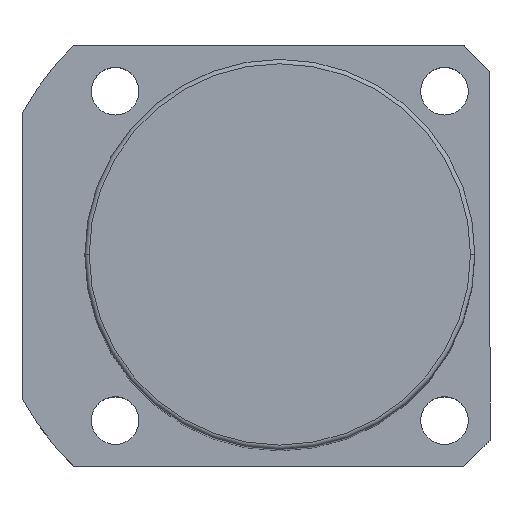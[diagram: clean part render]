
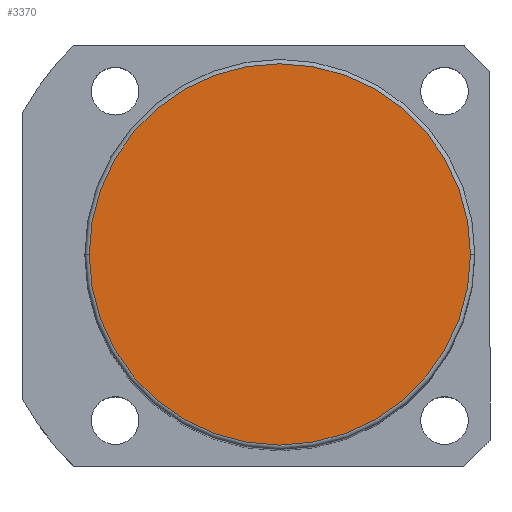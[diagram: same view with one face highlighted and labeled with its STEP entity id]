
A CAD part, top view. The second image highlights one B-rep face of the part: STEP entity #3370.
In plain terms, the highlighted planar face has unit normal (0, 0, 1).
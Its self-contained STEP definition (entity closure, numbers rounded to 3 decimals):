
#55 = ORIENTED_EDGE ( 'NONE', *, *, #4567, .T. ) ;
#267 = CARTESIAN_POINT ( 'NONE',  ( 0., 0., 206.5 ) ) ;
#838 = DIRECTION ( 'NONE',  ( 1., 0., 0. ) ) ;
#871 = EDGE_CURVE ( 'NONE', #4086, #2392, #5634, .T. ) ;
#1094 = AXIS2_PLACEMENT_3D ( 'NONE', #267, #4091, #838 ) ;
#1392 = PLANE ( 'NONE',  #3122 ) ;
#1928 = DIRECTION ( 'NONE',  ( 1., 0., 0. ) ) ;
#2392 = VERTEX_POINT ( 'NONE', #4528 ) ;
#2537 = DIRECTION ( 'NONE',  ( 0., 0., 1. ) ) ;
#2665 = CARTESIAN_POINT ( 'NONE',  ( -44., 0., 206.5 ) ) ;
#3122 = AXIS2_PLACEMENT_3D ( 'NONE', #4655, #5241, #1928 ) ;
#3370 = ADVANCED_FACE ( 'NONE', ( #4830 ), #1392, .T. ) ;
#3926 = EDGE_LOOP ( 'NONE', ( #55, #5176 ) ) ;
#4086 = VERTEX_POINT ( 'NONE', #2665 ) ;
#4091 = DIRECTION ( 'NONE',  ( 0., 0., 1. ) ) ;
#4528 = CARTESIAN_POINT ( 'NONE',  ( 44., 0., 206.5 ) ) ;
#4567 = EDGE_CURVE ( 'NONE', #2392, #4086, #5177, .T. ) ;
#4655 = CARTESIAN_POINT ( 'NONE',  ( 0., 0., 206.5 ) ) ;
#4830 = FACE_OUTER_BOUND ( 'NONE', #3926, .T. ) ;
#5176 = ORIENTED_EDGE ( 'NONE', *, *, #871, .T. ) ;
#5177 = CIRCLE ( 'NONE', #6530, 44. ) ;
#5241 = DIRECTION ( 'NONE',  ( 0., 0., 1. ) ) ;
#5634 = CIRCLE ( 'NONE', #1094, 44. ) ;
#5840 = CARTESIAN_POINT ( 'NONE',  ( 0., 0., 206.5 ) ) ;
#6402 = DIRECTION ( 'NONE',  ( 1., 0., 0. ) ) ;
#6530 = AXIS2_PLACEMENT_3D ( 'NONE', #5840, #2537, #6402 ) ;
